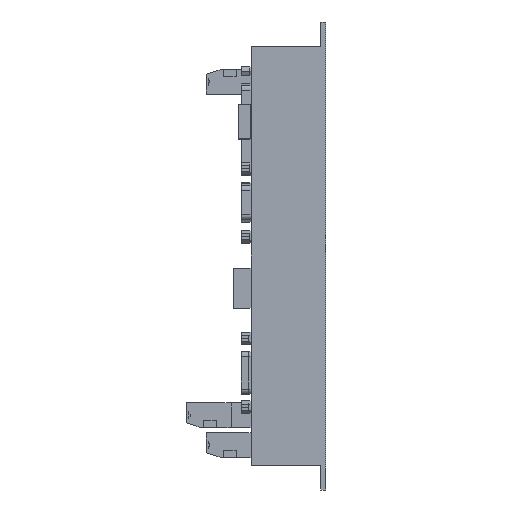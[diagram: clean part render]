
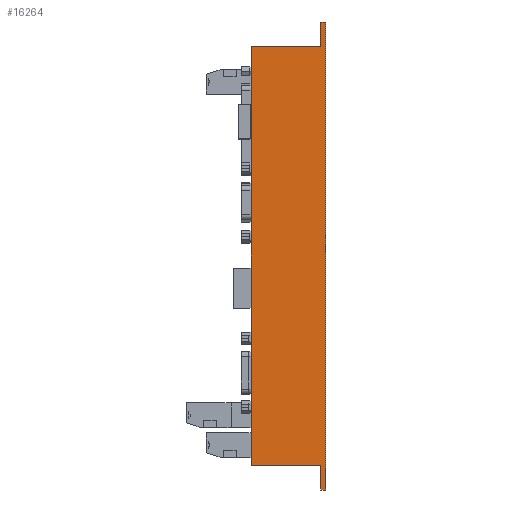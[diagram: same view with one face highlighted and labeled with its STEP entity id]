
A CAD part, left-side view. The second image highlights one B-rep face of the part: STEP entity #16264.
In plain terms, the highlighted planar face has unit normal (-1, 0, 0).
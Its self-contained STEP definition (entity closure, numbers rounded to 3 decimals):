
#1595 = ORIENTED_EDGE ( 'NONE', *, *, #29815, .F. ) ;
#3238 = LINE ( 'NONE', #63219, #47463 ) ;
#5341 = CARTESIAN_POINT ( 'NONE',  ( 0., 2., -112.297 ) ) ;
#8538 = VERTEX_POINT ( 'NONE', #32497 ) ;
#9578 = VERTEX_POINT ( 'NONE', #14900 ) ;
#10048 = ORIENTED_EDGE ( 'NONE', *, *, #21068, .F. ) ;
#11547 = ORIENTED_EDGE ( 'NONE', *, *, #41575, .F. ) ;
#12592 = LINE ( 'NONE', #58704, #43337 ) ;
#12668 = LINE ( 'NONE', #31508, #26247 ) ;
#14325 = DIRECTION ( 'NONE',  ( 0., 1., 0. ) ) ;
#14558 = CARTESIAN_POINT ( 'NONE',  ( 0., 2., -112.297 ) ) ;
#14900 = CARTESIAN_POINT ( 'NONE',  ( 0., 2., 65.703 ) ) ;
#15100 = CARTESIAN_POINT ( 'NONE',  ( 0., 30., 65.703 ) ) ;
#16264 = ADVANCED_FACE ( 'NONE', ( #26581 ), #44101, .F. ) ;
#16992 = VECTOR ( 'NONE', #43856, 1000. ) ;
#19623 = LINE ( 'NONE', #47663, #48542 ) ;
#19635 = DIRECTION ( 'NONE',  ( 0., 0., 1. ) ) ;
#20613 = DIRECTION ( 'NONE',  ( 0., 0., 1. ) ) ;
#20872 = DIRECTION ( 'NONE',  ( 0., -1., 0. ) ) ;
#21068 = EDGE_CURVE ( 'NONE', #36436, #50486, #12668, .T. ) ;
#21110 = DIRECTION ( 'NONE',  ( 0., 0., -1. ) ) ;
#21423 = ORIENTED_EDGE ( 'NONE', *, *, #21512, .F. ) ;
#21512 = EDGE_CURVE ( 'NONE', #56316, #31000, #12592, .T. ) ;
#22799 = DIRECTION ( 'NONE',  ( 0., 1., 0. ) ) ;
#24083 = DIRECTION ( 'NONE',  ( 0., -1., 0. ) ) ;
#24186 = ORIENTED_EDGE ( 'NONE', *, *, #50175, .F. ) ;
#25207 = EDGE_CURVE ( 'NONE', #54996, #61782, #3238, .T. ) ;
#26247 = VECTOR ( 'NONE', #14325, 1000. ) ;
#26581 = FACE_OUTER_BOUND ( 'NONE', #48239, .T. ) ;
#28145 = ORIENTED_EDGE ( 'NONE', *, *, #34173, .F. ) ;
#29815 = EDGE_CURVE ( 'NONE', #61782, #36436, #47689, .T. ) ;
#31000 = VERTEX_POINT ( 'NONE', #42321 ) ;
#31451 = VECTOR ( 'NONE', #20872, 1000. ) ;
#31508 = CARTESIAN_POINT ( 'NONE',  ( 0., 2., -102.297 ) ) ;
#32277 = CARTESIAN_POINT ( 'NONE',  ( 0., 0., 0. ) ) ;
#32497 = CARTESIAN_POINT ( 'NONE',  ( 0., 30., 65.703 ) ) ;
#34173 = EDGE_CURVE ( 'NONE', #8538, #9578, #62171, .T. ) ;
#36436 = VERTEX_POINT ( 'NONE', #71370 ) ;
#39904 = EDGE_CURVE ( 'NONE', #9578, #56316, #56939, .T. ) ;
#41549 = VECTOR ( 'NONE', #20613, 1000. ) ;
#41575 = EDGE_CURVE ( 'NONE', #31000, #54996, #67533, .T. ) ;
#42321 = CARTESIAN_POINT ( 'NONE',  ( 0., 0., 75.703 ) ) ;
#42326 = CARTESIAN_POINT ( 'NONE',  ( 0., 30., -102.297 ) ) ;
#43337 = VECTOR ( 'NONE', #24083, 1000. ) ;
#43856 = DIRECTION ( 'NONE',  ( 0., 0., 1. ) ) ;
#44101 = PLANE ( 'NONE',  #74349 ) ;
#47463 = VECTOR ( 'NONE', #22799, 1000. ) ;
#47663 = CARTESIAN_POINT ( 'NONE',  ( 0., 30., -102.297 ) ) ;
#47689 = LINE ( 'NONE', #14558, #16992 ) ;
#48239 = EDGE_LOOP ( 'NONE', ( #21423, #49856, #28145, #24186, #10048, #1595, #54877, #11547 ) ) ;
#48542 = VECTOR ( 'NONE', #19635, 1000. ) ;
#49417 = CARTESIAN_POINT ( 'NONE',  ( 0., 2., 65.703 ) ) ;
#49856 = ORIENTED_EDGE ( 'NONE', *, *, #39904, .F. ) ;
#50175 = EDGE_CURVE ( 'NONE', #50486, #8538, #19623, .T. ) ;
#50486 = VERTEX_POINT ( 'NONE', #42326 ) ;
#52106 = VECTOR ( 'NONE', #72614, 1000. ) ;
#54877 = ORIENTED_EDGE ( 'NONE', *, *, #25207, .F. ) ;
#54996 = VERTEX_POINT ( 'NONE', #66763 ) ;
#55737 = DIRECTION ( 'NONE',  ( 1., 0., 0. ) ) ;
#56316 = VERTEX_POINT ( 'NONE', #63739 ) ;
#56939 = LINE ( 'NONE', #49417, #41549 ) ;
#58704 = CARTESIAN_POINT ( 'NONE',  ( 0., 2., 75.703 ) ) ;
#60991 = CARTESIAN_POINT ( 'NONE',  ( 0., 0., 75.703 ) ) ;
#61782 = VERTEX_POINT ( 'NONE', #5341 ) ;
#62171 = LINE ( 'NONE', #15100, #31451 ) ;
#63219 = CARTESIAN_POINT ( 'NONE',  ( 0., 0., -112.297 ) ) ;
#63739 = CARTESIAN_POINT ( 'NONE',  ( 0., 2., 75.703 ) ) ;
#66763 = CARTESIAN_POINT ( 'NONE',  ( 0., 0., -112.297 ) ) ;
#67533 = LINE ( 'NONE', #60991, #52106 ) ;
#71370 = CARTESIAN_POINT ( 'NONE',  ( 0., 2., -102.297 ) ) ;
#72614 = DIRECTION ( 'NONE',  ( 0., 0., -1. ) ) ;
#74349 = AXIS2_PLACEMENT_3D ( 'NONE', #32277, #55737, #21110 ) ;
